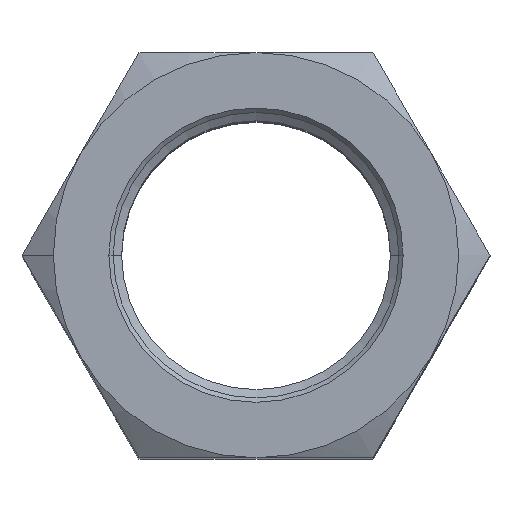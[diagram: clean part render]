
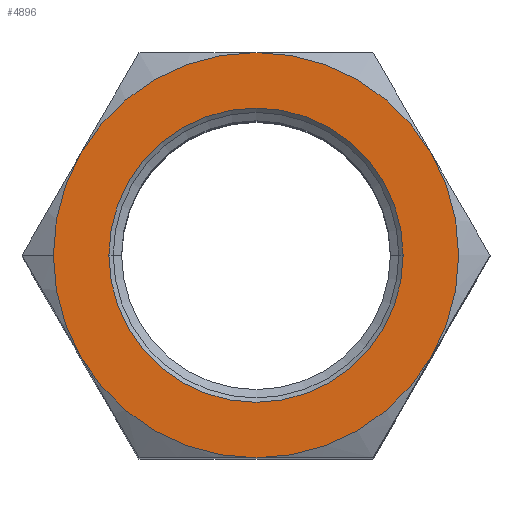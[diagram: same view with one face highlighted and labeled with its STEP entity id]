
A CAD part, top view. The second image highlights one B-rep face of the part: STEP entity #4896.
In plain terms, the highlighted planar face has unit normal (0, 0, 1).
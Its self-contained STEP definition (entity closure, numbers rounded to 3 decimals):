
#229 = DIRECTION ( 'NONE',  ( 0., 0., -1. ) ) ;
#345 = DIRECTION ( 'NONE',  ( 0., 0., 1. ) ) ;
#536 = VERTEX_POINT ( 'NONE', #15154 ) ;
#758 = AXIS2_PLACEMENT_3D ( 'NONE', #13452, #5192, #14798 ) ;
#1331 = CARTESIAN_POINT ( 'NONE',  ( 0., 0., 54.25 ) ) ;
#1498 = AXIS2_PLACEMENT_3D ( 'NONE', #13958, #5725, #15345 ) ;
#1666 = VERTEX_POINT ( 'NONE', #16880 ) ;
#2338 = EDGE_LOOP ( 'NONE', ( #10909, #5856 ) ) ;
#2376 = ORIENTED_EDGE ( 'NONE', *, *, #17070, .F. ) ;
#2527 = CARTESIAN_POINT ( 'NONE',  ( 0., 0., 54.25 ) ) ;
#2712 = DIRECTION ( 'NONE',  ( -1., 0., 0. ) ) ;
#3109 = CIRCLE ( 'NONE', #6423, 16.7 ) ;
#3331 = AXIS2_PLACEMENT_3D ( 'NONE', #8482, #229, #9868 ) ;
#3340 = CIRCLE ( 'NONE', #9865, 16.7 ) ;
#3400 = VERTEX_POINT ( 'NONE', #7451 ) ;
#3732 = DIRECTION ( 'NONE',  ( 0., 0., -1. ) ) ;
#3910 = DIRECTION ( 'NONE',  ( 1., 0., 0. ) ) ;
#3976 = CIRCLE ( 'NONE', #3331, 23. ) ;
#4199 = VERTEX_POINT ( 'NONE', #13603 ) ;
#4896 = ADVANCED_FACE ( 'NONE', ( #14274, #6960 ), #6528, .T. ) ;
#5192 = DIRECTION ( 'NONE',  ( 0., 0., 1. ) ) ;
#5428 = VERTEX_POINT ( 'NONE', #5846 ) ;
#5588 = CARTESIAN_POINT ( 'NONE',  ( -19.919, -11.5, 54.25 ) ) ;
#5725 = DIRECTION ( 'NONE',  ( 0., 0., -1. ) ) ;
#5798 = DIRECTION ( 'NONE',  ( 0., 0., 1. ) ) ;
#5824 = AXIS2_PLACEMENT_3D ( 'NONE', #15994, #7708, #17409 ) ;
#5846 = CARTESIAN_POINT ( 'NONE',  ( -16.7, 0., 54.25 ) ) ;
#5856 = ORIENTED_EDGE ( 'NONE', *, *, #11590, .F. ) ;
#5979 = EDGE_CURVE ( 'NONE', #4199, #6073, #11514, .T. ) ;
#6073 = VERTEX_POINT ( 'NONE', #14122 ) ;
#6128 = CARTESIAN_POINT ( 'NONE',  ( 0., 0., 54.25 ) ) ;
#6423 = AXIS2_PLACEMENT_3D ( 'NONE', #8597, #345, #9988 ) ;
#6528 = PLANE ( 'NONE',  #758 ) ;
#6782 = CARTESIAN_POINT ( 'NONE',  ( 16.7, 0., 54.25 ) ) ;
#6960 = FACE_OUTER_BOUND ( 'NONE', #9925, .T. ) ;
#6986 = VERTEX_POINT ( 'NONE', #5588 ) ;
#7451 = CARTESIAN_POINT ( 'NONE',  ( -23., 0., 54.25 ) ) ;
#7469 = DIRECTION ( 'NONE',  ( 1., 0., 0. ) ) ;
#7591 = ORIENTED_EDGE ( 'NONE', *, *, #9777, .F. ) ;
#7708 = DIRECTION ( 'NONE',  ( 0., 0., -1. ) ) ;
#8040 = EDGE_CURVE ( 'NONE', #6986, #3400, #11727, .T. ) ;
#8043 = EDGE_CURVE ( 'NONE', #17569, #6986, #3976, .T. ) ;
#8482 = CARTESIAN_POINT ( 'NONE',  ( 0., 0., 54.25 ) ) ;
#8597 = CARTESIAN_POINT ( 'NONE',  ( 0., 0., 54.25 ) ) ;
#8699 = ORIENTED_EDGE ( 'NONE', *, *, #14460, .F. ) ;
#8889 = ORIENTED_EDGE ( 'NONE', *, *, #5979, .F. ) ;
#9319 = VERTEX_POINT ( 'NONE', #6782 ) ;
#9494 = CIRCLE ( 'NONE', #16139, 23. ) ;
#9777 = EDGE_CURVE ( 'NONE', #536, #17569, #17097, .T. ) ;
#9865 = AXIS2_PLACEMENT_3D ( 'NONE', #14036, #5798, #15421 ) ;
#9868 = DIRECTION ( 'NONE',  ( 1., 0., 0. ) ) ;
#9925 = EDGE_LOOP ( 'NONE', ( #7591, #14868, #8699, #8889, #2376, #12098, #10911 ) ) ;
#9988 = DIRECTION ( 'NONE',  ( 1., 0., 0. ) ) ;
#10909 = ORIENTED_EDGE ( 'NONE', *, *, #12150, .F. ) ;
#10911 = ORIENTED_EDGE ( 'NONE', *, *, #8043, .F. ) ;
#10937 = DIRECTION ( 'NONE',  ( 0., 0., -1. ) ) ;
#11514 = CIRCLE ( 'NONE', #15312, 23. ) ;
#11590 = EDGE_CURVE ( 'NONE', #9319, #5428, #3340, .T. ) ;
#11727 = CIRCLE ( 'NONE', #1498, 23. ) ;
#11776 = CARTESIAN_POINT ( 'NONE',  ( 0., -23., 54.25 ) ) ;
#11975 = CARTESIAN_POINT ( 'NONE',  ( 0., 0., 54.25 ) ) ;
#12098 = ORIENTED_EDGE ( 'NONE', *, *, #8040, .F. ) ;
#12150 = EDGE_CURVE ( 'NONE', #5428, #9319, #3109, .T. ) ;
#12164 = DIRECTION ( 'NONE',  ( 0., 0., -1. ) ) ;
#13400 = DIRECTION ( 'NONE',  ( 1., 0., 0. ) ) ;
#13452 = CARTESIAN_POINT ( 'NONE',  ( -26.558, 0., 54.25 ) ) ;
#13603 = CARTESIAN_POINT ( 'NONE',  ( -19.919, 11.5, 54.25 ) ) ;
#13958 = CARTESIAN_POINT ( 'NONE',  ( 0., 0., 54.25 ) ) ;
#14036 = CARTESIAN_POINT ( 'NONE',  ( 0., 0., 54.25 ) ) ;
#14039 = EDGE_CURVE ( 'NONE', #1666, #536, #9494, .T. ) ;
#14122 = CARTESIAN_POINT ( 'NONE',  ( 0., 23., 54.25 ) ) ;
#14274 = FACE_BOUND ( 'NONE', #2338, .T. ) ;
#14460 = EDGE_CURVE ( 'NONE', #6073, #1666, #15055, .T. ) ;
#14498 = AXIS2_PLACEMENT_3D ( 'NONE', #6128, #15736, #7469 ) ;
#14765 = AXIS2_PLACEMENT_3D ( 'NONE', #2527, #12164, #3910 ) ;
#14798 = DIRECTION ( 'NONE',  ( 1., 0., 0. ) ) ;
#14868 = ORIENTED_EDGE ( 'NONE', *, *, #14039, .F. ) ;
#15055 = CIRCLE ( 'NONE', #14498, 23. ) ;
#15154 = CARTESIAN_POINT ( 'NONE',  ( 19.919, -11.5, 54.25 ) ) ;
#15312 = AXIS2_PLACEMENT_3D ( 'NONE', #1331, #10937, #2712 ) ;
#15345 = DIRECTION ( 'NONE',  ( 1., 0., 0. ) ) ;
#15421 = DIRECTION ( 'NONE',  ( 1., 0., 0. ) ) ;
#15736 = DIRECTION ( 'NONE',  ( 0., 0., -1. ) ) ;
#15994 = CARTESIAN_POINT ( 'NONE',  ( 0., 0., 54.25 ) ) ;
#16139 = AXIS2_PLACEMENT_3D ( 'NONE', #11975, #3732, #13400 ) ;
#16880 = CARTESIAN_POINT ( 'NONE',  ( 19.919, 11.5, 54.25 ) ) ;
#17070 = EDGE_CURVE ( 'NONE', #3400, #4199, #17791, .T. ) ;
#17097 = CIRCLE ( 'NONE', #5824, 23. ) ;
#17409 = DIRECTION ( 'NONE',  ( 1., 0., 0. ) ) ;
#17569 = VERTEX_POINT ( 'NONE', #11776 ) ;
#17791 = CIRCLE ( 'NONE', #14765, 23. ) ;
